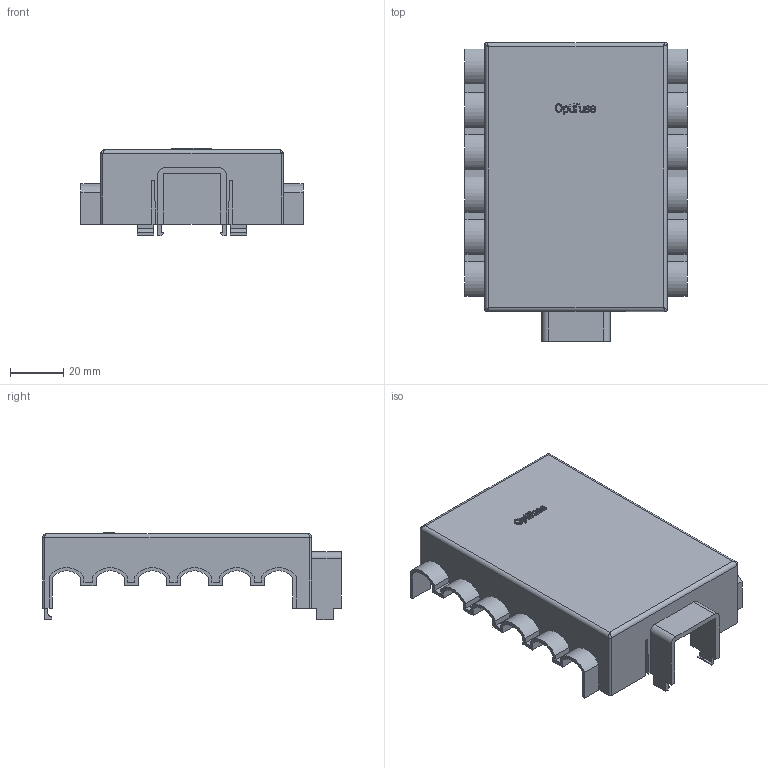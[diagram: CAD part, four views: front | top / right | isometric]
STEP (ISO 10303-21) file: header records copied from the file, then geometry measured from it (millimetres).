
FILE_DESCRIPTION(/* description */ (''),/* implementation_level */ '2;1');
FILE_NAME(/* name */ 'C:\Users\Hani\Desktop\work\BLC-112-G\BLC-112-C.stp',/* time_stamp */ '2021-07-08T14:06:39-07:00',/* author */ ('Hani'),/* organization */ (''),/* preprocessor_version */ 'ST-DEVELOPER v17',/* originating_system */ 'Autodesk Inventor 2019',/* authorisation */ '');
FILE_SCHEMA (('AUTOMOTIVE_DESIGN { 1 0 10303 214 3 1 1 }'));
Length unit declared in the file: inch
Products named in the file (1): BLC-106-C
Bounding box: 83.31 x 112.01 x 32.77 mm (x, y, z)
Volume: 29815.5 mm3; surface area: 33043.8 mm2
Topology: 1 solids, 1 shells, 308 faces, 874 edges, 576 vertices
Faces by surface type: plane 189, bspline 71, cylinder 48
Entity records: 10606 total; most frequent: CARTESIAN_POINT 2951, ORIENTED_EDGE 1740, DIRECTION 1308, EDGE_CURVE 870, LINE 640, VECTOR 640, VERTEX_POINT 576, AXIS2_PLACEMENT_3D 334
